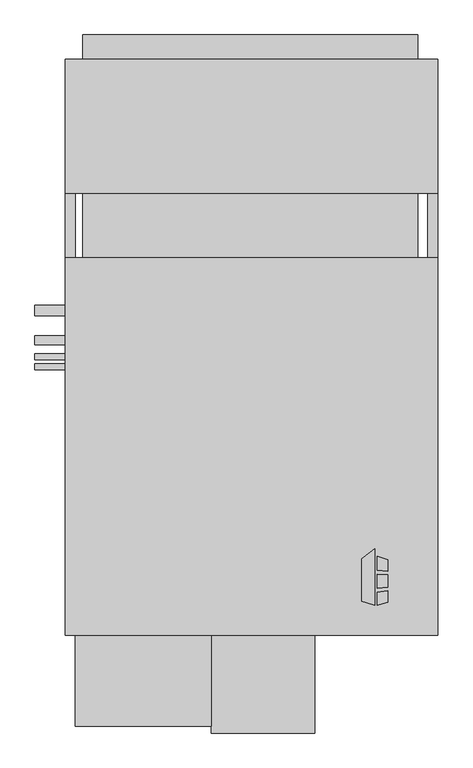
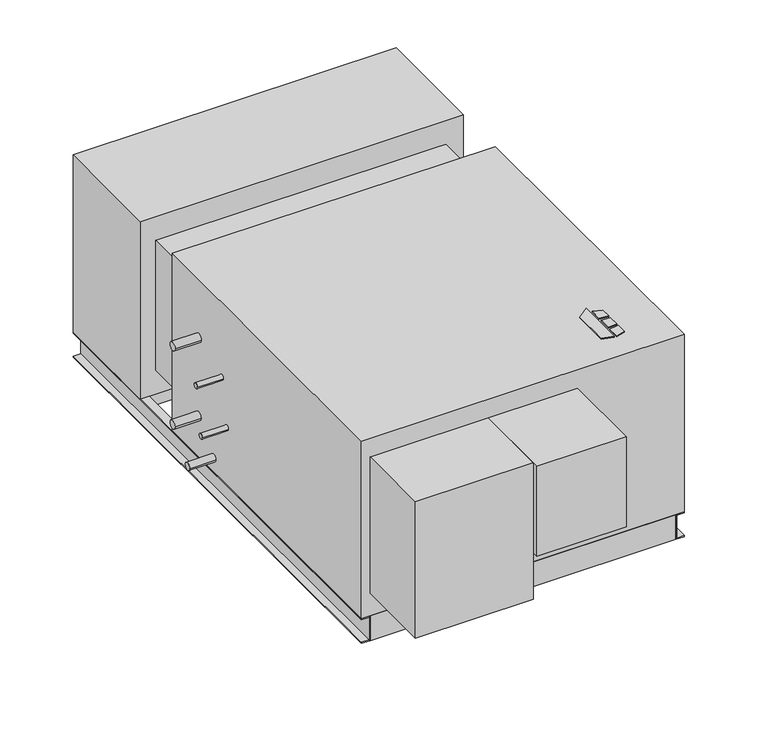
"""IFC4 building model written with IfcOpenShell, lengths in millimetres: proxy geometry, Horizontal_Direct_Drive_Blower_Coil_Unit_-_HDY_-_IEC_-_4-Pipe_NFilterR_W-MixingBox_LH_2022 : Size 10 - 460v/60Hz/3Ph - 6/2 Coil."""

from ifc_helpers import new_model, si_unit, point, frame, frame_2d, origin, origin_with_axes, place, context, project, spatial, polyline, circle_curve, trimmed, segment, composite_curve, outline, extrude, source, transform, mapped, element, save


def mechanical_equipment_a2eb8fe1(model_context):
    return source(origin(), model_context, "Body", "SweptSolid", [
        extrude(outline(polyline([(-319.3980239, -267.6578476), (-286.8397272, -242.2205184), (-286.8397272, -384.175), (-319.3980239, -373.9554201), (-319.3980239, -267.6578476)])), origin_with_axes(), (0.0, 0.0, 1.0), 3.175),
        extrude(outline(polyline([(-280.0813942, -295.529852), (-280.0813942, -261.0499379), (-254.0, -269.2365115), (-254.0, -298.7322446), (-280.0813942, -295.529852)])), origin_with_axes(), (0.0, 0.0, 1.0), 3.175),
        extrude(outline(polyline([(-254.0, -377.1865115), (-280.0813942, -384.175), (-280.0813942, -350.9536996), (-254.0, -347.4118564), (-254.0, -377.1865115)])), origin_with_axes(), (0.0, 0.0, 1.0), 3.175),
        extrude(outline(polyline([(-254.0, -307.8138277), (-254.0, -339.063983), (-280.0813942, -341.805248), (-280.0813942, -305.9475378), (-254.0, -307.8138277)])), origin_with_axes(), (0.0, 0.0, 1.0), 3.175),
        extrude(outline(polyline([(-177.8, 890.905), (-177.8, 687.705), (-1022.35, 687.705), (-1022.35, 890.905), (-177.8, 890.905)])), frame((0.0, 0.0, -607.06), z_axis=(0.0, 0.0, 1.0), x_axis=(1.0, 0.0, 0.0)), (0.0, 0.0, 1.0), 60.96),
        extrude(outline(polyline([(-1022.35, 1053.465), (-177.8, 1053.465), (-177.8, 992.505), (-1022.35, 992.505), (-1022.35, 1053.465)])), frame((0.0, 0.0, -279.4), z_axis=(0.0, 0.0, 1.0), x_axis=(1.0, 0.0, 0.0)), (0.0, 0.0, 1.0), 203.2),
        extrude(outline(polyline([(-127.0, 992.505), (-127.0, 654.05), (-1066.8, 654.05), (-1066.8, 992.505), (-127.0, 992.505)])), frame((0.0, 0.0, -546.1), z_axis=(0.0, 0.0, 1.0), x_axis=(1.0, 0.0, 0.0)), (0.0, 0.0, 1.0), 546.1),
        extrude(outline(polyline([(-152.4, -434.975), (-152.4, -460.375), (-1041.4, -460.375), (-1041.4, -434.975), (-152.4, -434.975)])), frame((0.0, 0.0, -622.3), z_axis=(0.0, 0.0, 1.0), x_axis=(1.0, 0.0, 0.0)), (0.0, 0.0, 1.0), 76.2),
        extrude(outline(polyline([(-152.4, 992.505), (-152.4, 967.105), (-1041.4, 967.105), (-1041.4, 992.505), (-152.4, 992.505)])), frame((0.0, 0.0, -622.3), z_axis=(0.0, 0.0, 1.0), x_axis=(1.0, 0.0, 0.0)), (0.0, 0.0, 1.0), 76.2),
        extrude(outline(polyline([(-546.1, -1041.4), (-546.1, -1066.8), (-549.275, -1066.8), (-549.275, -1044.575), (-619.125, -1044.575), (-619.125, -1066.8), (-622.3, -1066.8), (-622.3, -1041.4), (-546.1, -1041.4)])), frame((0.0, -460.375, 0.0), z_axis=(0.0, 1.0, 0.0), x_axis=(0.0, 0.0, 1.0)), (0.0, 0.0, 1.0), 1452.88),
        extrude(outline(polyline([(-546.1, -152.4), (-622.3, -152.4), (-622.3, -127.0), (-619.125, -127.0), (-619.125, -149.225), (-549.275, -149.225), (-549.275, -127.0), (-546.1, -127.0), (-546.1, -152.4)])), frame((0.0, -460.375, 0.0), z_axis=(0.0, 1.0, 0.0), x_axis=(0.0, 0.0, 1.0)), (0.0, 0.0, 1.0), 1452.88),
        extrude(outline(composite_curve([segment(trimmed(circle_curve(frame_2d((358.775, -177.8)), 12.7), [point((371.475, -177.8))], [point((346.075, -177.8))], False, "CARTESIAN"), True, "CONTINUOUS"), segment(trimmed(circle_curve(frame_2d((358.775, -177.8)), 12.7), [point((346.075, -177.8))], [point((371.475, -177.8))], False, "CARTESIAN"), True, "CONTINUOUS")], self_intersect=False)), frame((-1143.0, 0.0, 0.0), z_axis=(1.0, 0.0, 0.0), x_axis=(0.0, 1.0, 0.0)), (0.0, 0.0, 1.0), 76.2),
        extrude(outline(composite_curve([segment(trimmed(circle_curve(frame_2d((359.642288, -419.1)), 12.7), [point((372.342288, -419.1))], [point((346.942288, -419.1))], False, "CARTESIAN"), True, "CONTINUOUS"), segment(trimmed(circle_curve(frame_2d((359.642288, -419.1)), 12.7), [point((346.942288, -419.1))], [point((372.342288, -419.1))], False, "CARTESIAN"), True, "CONTINUOUS")], self_intersect=False)), frame((-1143.0, 0.0, 0.0), z_axis=(1.0, 0.0, 0.0), x_axis=(0.0, 1.0, 0.0)), (0.0, 0.0, 1.0), 76.2),
        extrude(outline(composite_curve([segment(trimmed(circle_curve(frame_2d((283.442288, -501.65)), 11.1125), [point((294.554788, -501.65))], [point((272.329788, -501.65))], False, "CARTESIAN"), True, "CONTINUOUS"), segment(trimmed(circle_curve(frame_2d((283.442288, -501.65)), 11.1125), [point((272.329788, -501.65))], [point((294.554788, -501.65))], False, "CARTESIAN"), True, "CONTINUOUS")], self_intersect=False)), frame((-1143.0, 0.0, 0.0), z_axis=(1.0, 0.0, 0.0), x_axis=(0.0, 1.0, 0.0)), (0.0, 0.0, 1.0), 76.2),
        extrude(outline(composite_curve([segment(trimmed(circle_curve(frame_2d((242.167288, -228.6)), 7.9375), [point((250.104788, -228.6))], [point((234.229788, -228.6))], False, "CARTESIAN"), True, "CONTINUOUS"), segment(trimmed(circle_curve(frame_2d((242.167288, -228.6)), 7.9375), [point((234.229788, -228.6))], [point((250.104788, -228.6))], False, "CARTESIAN"), True, "CONTINUOUS")], self_intersect=False)), frame((-1143.0, 0.0, 0.0), z_axis=(1.0, 0.0, 0.0), x_axis=(0.0, 1.0, 0.0)), (0.0, 0.0, 1.0), 76.2),
        extrude(outline(composite_curve([segment(trimmed(circle_curve(frame_2d((216.767288, -368.5792556)), 7.9375), [point((224.704788, -368.5792556))], [point((208.829788, -368.5792556))], False, "CARTESIAN"), True, "CONTINUOUS"), segment(trimmed(circle_curve(frame_2d((216.767288, -368.5792556)), 7.9375), [point((208.829788, -368.5792556))], [point((224.704788, -368.5792556))], False, "CARTESIAN"), True, "CONTINUOUS")], self_intersect=False)), frame((-1143.0, 0.0, 0.0), z_axis=(1.0, 0.0, 0.0), x_axis=(0.0, 1.0, 0.0)), (0.0, 0.0, 1.0), 76.2),
        extrude(outline(polyline([(-127.0, 492.125), (-127.0, -460.375), (-1066.8, -460.375), (-1066.8, 492.125), (-127.0, 492.125)])), frame((0.0, 0.0, -546.1), z_axis=(0.0, 0.0, 1.0), x_axis=(1.0, 0.0, 0.0)), (0.0, 0.0, 1.0), 546.1),
        extrude(outline(polyline([(-698.5, -688.975), (-1041.4, -688.975), (-1041.4, -460.375), (-698.5, -460.375), (-698.5, -688.975)])), frame((0.0, 0.0, -476.25), z_axis=(0.0, 0.0, 1.0), x_axis=(1.0, 0.0, 0.0)), (0.0, 0.0, 1.0), 419.1),
        extrude(outline(polyline([(-1022.35, 654.05), (-177.8, 654.05), (-177.8, 492.125), (-1022.35, 492.125), (-1022.35, 654.05)])), frame((0.0, 0.0, -473.075), z_axis=(0.0, 0.0, 1.0), x_axis=(1.0, 0.0, 0.0)), (0.0, 0.0, 1.0), 400.05),
        extrude(outline(polyline([(-438.15, -706.4375), (-698.5, -706.4375), (-698.5, -460.375), (-438.15, -460.375), (-438.15, -706.4375)])), frame((0.0, 0.0, -333.375), z_axis=(0.0, 0.0, 1.0), x_axis=(1.0, 0.0, 0.0)), (0.0, 0.0, 1.0), 276.225),
    ])


if __name__ == "__main__":
    model = new_model("IFC4")
    model_context = context("Model", 3, world=origin())
    ifc_project = project(units=[si_unit("LENGTHUNIT", "METRE", prefix="MILLI")], contexts=[model_context])
    site = spatial("IfcSite", under=ifc_project)
    building = spatial("IfcBuilding", under=site)
    placement = place(None, origin())
    mechanical_equipment_shape = mechanical_equipment_a2eb8fe1(model_context)
    element("IfcBuildingElementProxy", 1, Name="Horizontal_Direct_Drive_Blower_Coil_Unit_-_HDY_-_IEC_-_4-Pipe_NFilterR_W-MixingBox_LH_2022 : Size 10 - 460v/60Hz/3Ph - 6/2 Coil", ObjectType="Horizontal_Direct_Drive_Blower_Coil_Unit_-_HDY_-_IEC_-_4-Pipe_NFilterR_W-MixingBox_LH_2022 : Size 10 - 460v/60Hz/3Ph - 6/2 Coil", at=placement, inside=building, context=model_context, shape_type="MappedRepresentation", body=[
        mapped(mechanical_equipment_shape, transform((0.0, 0.0, 0.0), x_axis=(1.0, 0.0, 0.0), y_axis=(0.0, 1.0, 0.0), z_axis=(0.0, 0.0, 1.0))),
    ])
    save(model, "model.ifc")
